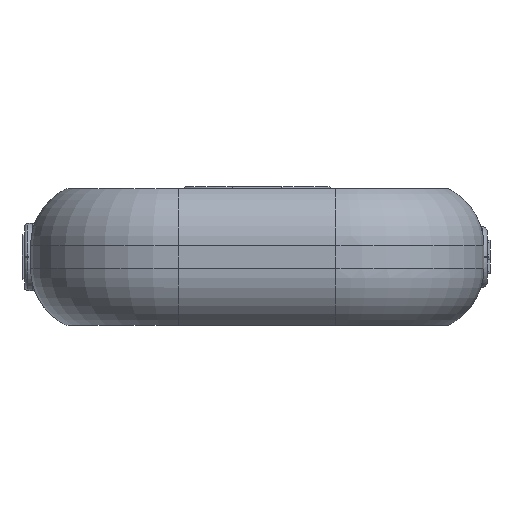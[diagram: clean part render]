
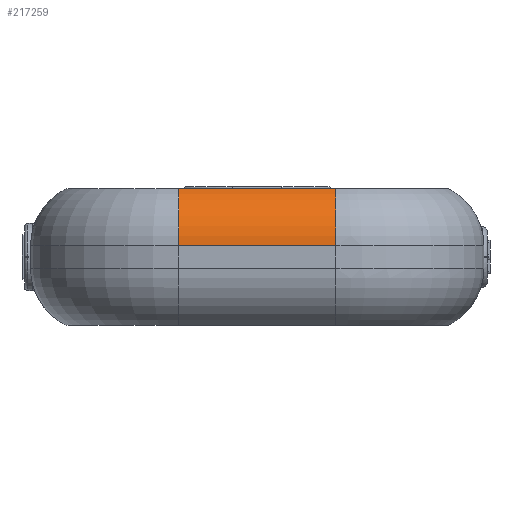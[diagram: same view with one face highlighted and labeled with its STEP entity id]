
A CAD part, front view. The second image highlights one B-rep face of the part: STEP entity #217259.
In plain terms, the highlighted cylindrical face has radius 11.35 mm (diameter 22.7 mm), a partial arc.
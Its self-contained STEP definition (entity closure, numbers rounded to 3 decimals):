
#213986 = TOROIDAL_SURFACE('',#213987,15.,11.35);
#213987 = AXIS2_PLACEMENT_3D('',#213988,#213989,#213990);
#213988 = CARTESIAN_POINT('',(-14.,-50.,-10.));
#213989 = DIRECTION('',(0.,0.,1.));
#213990 = DIRECTION('',(0.,-1.,0.));
#216259 = VERTEX_POINT('',#216260);
#216260 = CARTESIAN_POINT('',(-14.,-70.,0.189));
#216284 = VERTEX_POINT('',#216285);
#216285 = CARTESIAN_POINT('',(-14.,-76.35,-10.));
#216307 = EDGE_CURVE('',#216284,#216259,#216308,.T.);
#216308 = SURFACE_CURVE('',#216309,(#216314,#216320),.PCURVE_S1.);
#216309 = CIRCLE('',#216310,11.35);
#216310 = AXIS2_PLACEMENT_3D('',#216311,#216312,#216313);
#216311 = CARTESIAN_POINT('',(-14.,-65.,-10.));
#216312 = DIRECTION('',(-1.,0.,0.));
#216313 = DIRECTION('',(0.,-1.,0.));
#216314 = PCURVE('',#213986,#216315);
#216315 = DEFINITIONAL_REPRESENTATION('',(#216316),#216319);
#216316 = B_SPLINE_CURVE_WITH_KNOTS('',1,(#216317,#216318),
  .UNSPECIFIED.,.F.,.F.,(2,2),(0.,1.571),
  .PIECEWISE_BEZIER_KNOTS.);
#216317 = CARTESIAN_POINT('',(6.283,0.));
#216318 = CARTESIAN_POINT('',(6.283,1.571));
#216319 = ( GEOMETRIC_REPRESENTATION_CONTEXT(2) 
PARAMETRIC_REPRESENTATION_CONTEXT() REPRESENTATION_CONTEXT('2D SPACE',''
  ) );
#216320 = PCURVE('',#216321,#216326);
#216321 = CYLINDRICAL_SURFACE('',#216322,11.35);
#216322 = AXIS2_PLACEMENT_3D('',#216323,#216324,#216325);
#216323 = CARTESIAN_POINT('',(14.,-65.,-10.));
#216324 = DIRECTION('',(-1.,-0.,-0.));
#216325 = DIRECTION('',(0.,-1.,0.));
#216326 = DEFINITIONAL_REPRESENTATION('',(#216327),#216330);
#216327 = B_SPLINE_CURVE_WITH_KNOTS('',1,(#216328,#216329),
  .UNSPECIFIED.,.F.,.F.,(2,2),(0.,1.571),
  .PIECEWISE_BEZIER_KNOTS.);
#216328 = CARTESIAN_POINT('',(0.,28.));
#216329 = CARTESIAN_POINT('',(1.571,28.));
#216330 = ( GEOMETRIC_REPRESENTATION_CONTEXT(2) 
PARAMETRIC_REPRESENTATION_CONTEXT() REPRESENTATION_CONTEXT('2D SPACE',''
  ) );
#216676 = PLANE('',#216677);
#216677 = AXIS2_PLACEMENT_3D('',#216678,#216679,#216680);
#216678 = CARTESIAN_POINT('',(-14.,-76.35,-25.35));
#216679 = DIRECTION('',(0.,1.,0.));
#216680 = DIRECTION('',(1.,0.,0.));
#217245 = PLANE('',#217246);
#217246 = AXIS2_PLACEMENT_3D('',#217247,#217248,#217249);
#217247 = CARTESIAN_POINT('',(-14.,-70.,-40.));
#217248 = DIRECTION('',(0.,1.,0.));
#217249 = DIRECTION('',(1.,0.,0.));
#217259 = ADVANCED_FACE('',(#217260),#216321,.T.);
#217260 = FACE_BOUND('',#217261,.T.);
#217261 = EDGE_LOOP('',(#217262,#217285,#217312,#217332));
#217262 = ORIENTED_EDGE('',*,*,#217263,.F.);
#217263 = EDGE_CURVE('',#217264,#216284,#217266,.T.);
#217264 = VERTEX_POINT('',#217265);
#217265 = CARTESIAN_POINT('',(14.,-76.35,-10.));
#217266 = SURFACE_CURVE('',#217267,(#217271,#217278),.PCURVE_S1.);
#217267 = LINE('',#217268,#217269);
#217268 = CARTESIAN_POINT('',(14.,-76.35,-10.));
#217269 = VECTOR('',#217270,1.);
#217270 = DIRECTION('',(-1.,-0.,-0.));
#217271 = PCURVE('',#216321,#217272);
#217272 = DEFINITIONAL_REPRESENTATION('',(#217273),#217277);
#217273 = LINE('',#217274,#217275);
#217274 = CARTESIAN_POINT('',(0.,0.));
#217275 = VECTOR('',#217276,1.);
#217276 = DIRECTION('',(0.,1.));
#217277 = ( GEOMETRIC_REPRESENTATION_CONTEXT(2) 
PARAMETRIC_REPRESENTATION_CONTEXT() REPRESENTATION_CONTEXT('2D SPACE',''
  ) );
#217278 = PCURVE('',#216676,#217279);
#217279 = DEFINITIONAL_REPRESENTATION('',(#217280),#217284);
#217280 = LINE('',#217281,#217282);
#217281 = CARTESIAN_POINT('',(28.,-15.35));
#217282 = VECTOR('',#217283,1.);
#217283 = DIRECTION('',(-1.,0.));
#217284 = ( GEOMETRIC_REPRESENTATION_CONTEXT(2) 
PARAMETRIC_REPRESENTATION_CONTEXT() REPRESENTATION_CONTEXT('2D SPACE',''
  ) );
#217285 = ORIENTED_EDGE('',*,*,#217286,.T.);
#217286 = EDGE_CURVE('',#217264,#217287,#217289,.T.);
#217287 = VERTEX_POINT('',#217288);
#217288 = CARTESIAN_POINT('',(14.,-70.,0.189));
#217289 = SURFACE_CURVE('',#217290,(#217295,#217301),.PCURVE_S1.);
#217290 = CIRCLE('',#217291,11.35);
#217291 = AXIS2_PLACEMENT_3D('',#217292,#217293,#217294);
#217292 = CARTESIAN_POINT('',(14.,-65.,-10.));
#217293 = DIRECTION('',(-1.,0.,0.));
#217294 = DIRECTION('',(0.,-1.,0.));
#217295 = PCURVE('',#216321,#217296);
#217296 = DEFINITIONAL_REPRESENTATION('',(#217297),#217300);
#217297 = B_SPLINE_CURVE_WITH_KNOTS('',1,(#217298,#217299),
  .UNSPECIFIED.,.F.,.F.,(2,2),(0.,1.571),
  .PIECEWISE_BEZIER_KNOTS.);
#217298 = CARTESIAN_POINT('',(0.,0.));
#217299 = CARTESIAN_POINT('',(1.571,0.));
#217300 = ( GEOMETRIC_REPRESENTATION_CONTEXT(2) 
PARAMETRIC_REPRESENTATION_CONTEXT() REPRESENTATION_CONTEXT('2D SPACE',''
  ) );
#217301 = PCURVE('',#217302,#217307);
#217302 = TOROIDAL_SURFACE('',#217303,15.,11.35);
#217303 = AXIS2_PLACEMENT_3D('',#217304,#217305,#217306);
#217304 = CARTESIAN_POINT('',(14.,-50.,-10.));
#217305 = DIRECTION('',(0.,0.,1.));
#217306 = DIRECTION('',(1.,0.,0.));
#217307 = DEFINITIONAL_REPRESENTATION('',(#217308),#217311);
#217308 = B_SPLINE_CURVE_WITH_KNOTS('',1,(#217309,#217310),
  .UNSPECIFIED.,.F.,.F.,(2,2),(0.,1.571),
  .PIECEWISE_BEZIER_KNOTS.);
#217309 = CARTESIAN_POINT('',(4.712,0.));
#217310 = CARTESIAN_POINT('',(4.712,1.571));
#217311 = ( GEOMETRIC_REPRESENTATION_CONTEXT(2) 
PARAMETRIC_REPRESENTATION_CONTEXT() REPRESENTATION_CONTEXT('2D SPACE',''
  ) );
#217312 = ORIENTED_EDGE('',*,*,#217313,.T.);
#217313 = EDGE_CURVE('',#217287,#216259,#217314,.T.);
#217314 = SURFACE_CURVE('',#217315,(#217319,#217325),.PCURVE_S1.);
#217315 = LINE('',#217316,#217317);
#217316 = CARTESIAN_POINT('',(14.,-70.,0.189));
#217317 = VECTOR('',#217318,1.);
#217318 = DIRECTION('',(-1.,-0.,-0.));
#217319 = PCURVE('',#216321,#217320);
#217320 = DEFINITIONAL_REPRESENTATION('',(#217321),#217324);
#217321 = B_SPLINE_CURVE_WITH_KNOTS('',1,(#217322,#217323),
  .UNSPECIFIED.,.F.,.F.,(2,2),(0.,28.),
  .PIECEWISE_BEZIER_KNOTS.);
#217322 = CARTESIAN_POINT('',(1.115,0.));
#217323 = CARTESIAN_POINT('',(1.115,28.));
#217324 = ( GEOMETRIC_REPRESENTATION_CONTEXT(2) 
PARAMETRIC_REPRESENTATION_CONTEXT() REPRESENTATION_CONTEXT('2D SPACE',''
  ) );
#217325 = PCURVE('',#217245,#217326);
#217326 = DEFINITIONAL_REPRESENTATION('',(#217327),#217331);
#217327 = LINE('',#217328,#217329);
#217328 = CARTESIAN_POINT('',(28.,-40.189));
#217329 = VECTOR('',#217330,1.);
#217330 = DIRECTION('',(-1.,0.));
#217331 = ( GEOMETRIC_REPRESENTATION_CONTEXT(2) 
PARAMETRIC_REPRESENTATION_CONTEXT() REPRESENTATION_CONTEXT('2D SPACE',''
  ) );
#217332 = ORIENTED_EDGE('',*,*,#216307,.F.);
